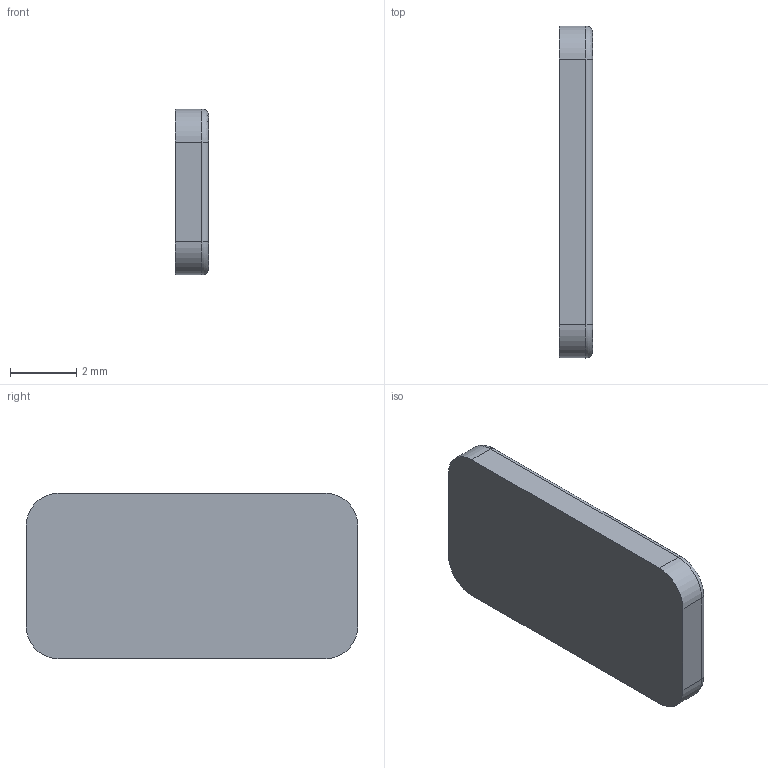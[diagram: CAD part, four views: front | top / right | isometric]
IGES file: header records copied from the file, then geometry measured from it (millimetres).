
Start section:  PTC IGES file: id-gtc-usb-cov_prt.igs
Global section: file name: id-gtc-usb-cov_prt.igs; native system: Pro/ENGINEER by Parametric Technology Corporation; preprocessor: 2006170; author: GRA; organization: Unknown; date: 20080630.105202; units: millimetre
Bounding box: 1 x 10 x 5 mm (x, y, z)
Surface area: 124.1 mm2 (no closed solid volume)
Topology: 0 solids, 0 shells, 18 faces, 80 edges, 80 vertices
Faces by surface type: revolution 12, bspline 6
